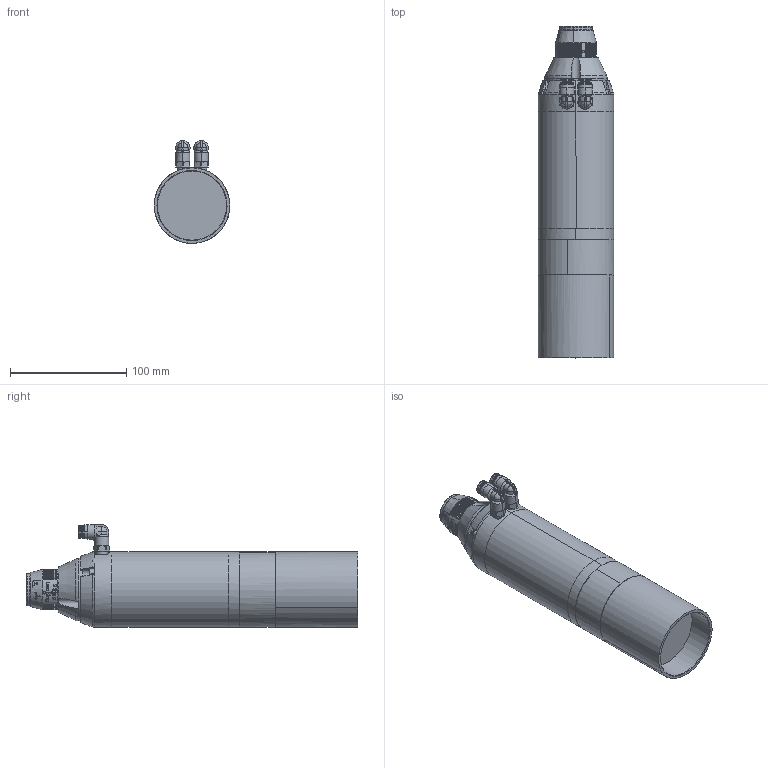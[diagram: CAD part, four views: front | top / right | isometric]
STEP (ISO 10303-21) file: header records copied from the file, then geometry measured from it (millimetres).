
FILE_DESCRIPTION (( 'STEP AP214' ), '1' );
FILE_NAME ('COL-50-T200-900-1100-QBH.STEP', '2018-06-13T14:33:55', ( '' ), ( '' ), 'SwSTEP 2.0', 'SolidWorks 2018', '' );
FILE_SCHEMA (( 'AUTOMOTIVE_DESIGN' ));
Length unit declared in the file: inch
Products named in the file (1): COL-50-T200-900-1100-QBH
Bounding box: 65.02 x 285.62 x 88.37 mm (x, y, z)
Surface area: 187657.4 mm2 (no closed solid volume)
Topology: 0 solids, 42 shells, 2032 faces, 5559 edges, 3370 vertices
Faces by surface type: cylinder 677, bspline 569, plane 342, cone 228, torus 216
Entity records: 122783 total; most frequent: CARTESIAN_POINT 76290, ORIENTED_EDGE 10112, DIRECTION 8965, EDGE_CURVE 5138, AXIS2_PLACEMENT_3D 3784, VERTEX_POINT 3370, CIRCLE 2320, EDGE_LOOP 2296
